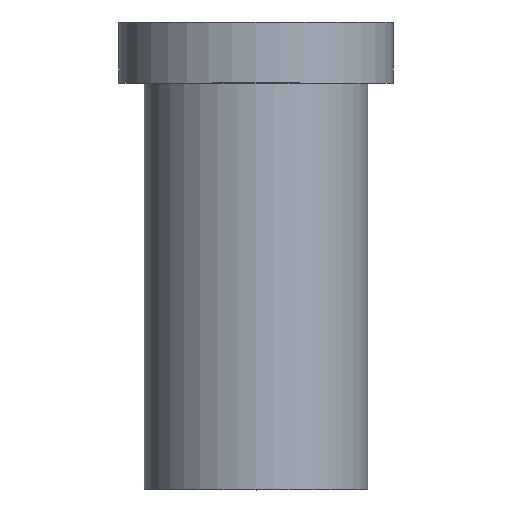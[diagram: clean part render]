
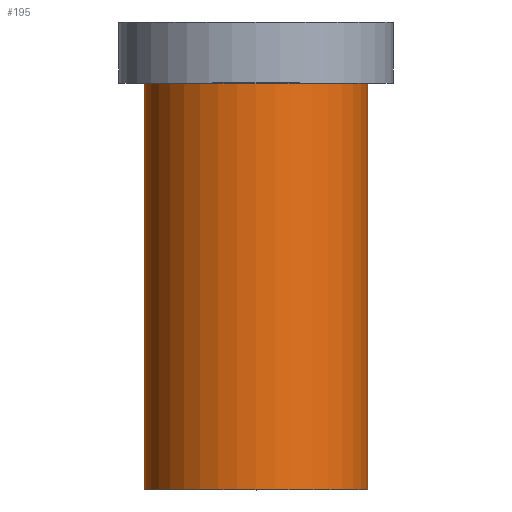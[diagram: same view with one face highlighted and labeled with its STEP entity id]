
A CAD part, top view. The second image highlights one B-rep face of the part: STEP entity #195.
In plain terms, the highlighted cylindrical face has radius 11 mm (diameter 22 mm), a full revolution.
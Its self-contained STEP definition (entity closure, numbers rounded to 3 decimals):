
#32=ORIENTED_EDGE('',*,*,#50,.T.);
#33=ORIENTED_EDGE('',*,*,#49,.F.);
#49=EDGE_CURVE('',#59,#59,#69,.T.);
#50=EDGE_CURVE('',#60,#60,#70,.T.);
#59=VERTEX_POINT('',#280);
#60=VERTEX_POINT('',#283);
#69=CIRCLE('',#213,11.);
#70=CIRCLE('',#215,11.);
#82=EDGE_LOOP('',(#32));
#83=EDGE_LOOP('',(#33));
#102=FACE_BOUND('',#82,.T.);
#103=FACE_BOUND('',#83,.T.);
#117=CYLINDRICAL_SURFACE('',#214,11.);
#195=ADVANCED_FACE('',(#102,#103),#117,.T.);
#213=AXIS2_PLACEMENT_3D('',#279,#241,#242);
#214=AXIS2_PLACEMENT_3D('',#281,#243,#244);
#215=AXIS2_PLACEMENT_3D('',#282,#245,#246);
#241=DIRECTION('',(0.,-1.,0.));
#242=DIRECTION('',(0.,0.,-1.));
#243=DIRECTION('',(0.,-1.,0.));
#244=DIRECTION('',(0.,0.,-1.));
#245=DIRECTION('',(0.,-1.,0.));
#246=DIRECTION('',(0.,0.,-1.));
#279=CARTESIAN_POINT('',(0.,0.,0.));
#280=CARTESIAN_POINT('',(0.,0.,-11.));
#281=CARTESIAN_POINT('',(0.,0.,0.));
#282=CARTESIAN_POINT('',(0.,40.,0.));
#283=CARTESIAN_POINT('',(0.,40.,-11.));
